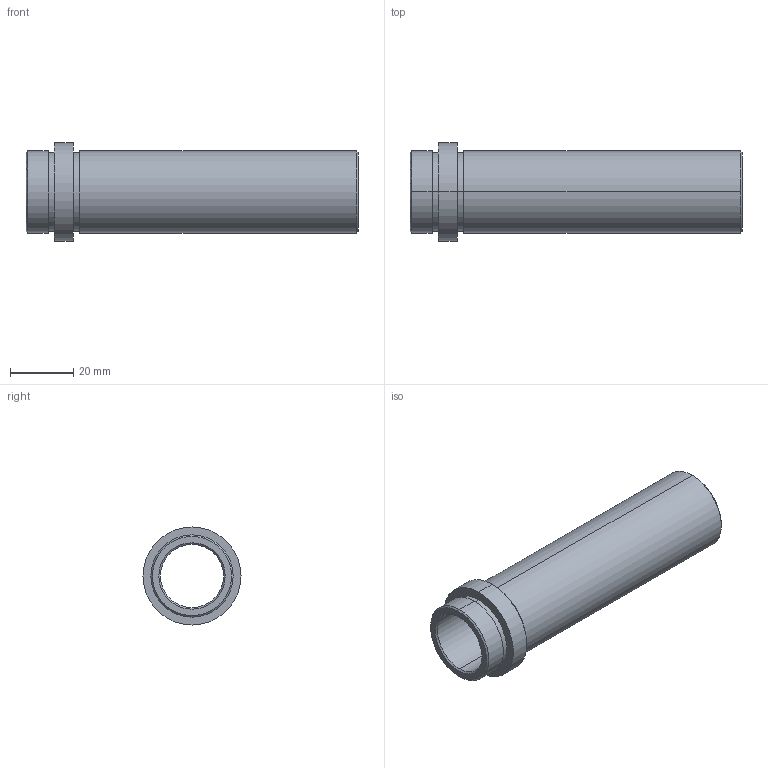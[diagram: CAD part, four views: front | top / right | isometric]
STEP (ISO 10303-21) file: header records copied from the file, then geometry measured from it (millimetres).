
FILE_DESCRIPTION( ( 'STEP AP203' ), '1' );
FILE_NAME( 'D:/Delta 3 D/D21/D21 - 20x96.step', '2002-12-31T22:38:16', ( ' ' ), ( ' ' ), 'XStep 1.0', ' ', ' ' );
FILE_SCHEMA( ( 'CONFIG_CONTROL_DESIGN' ) );
Length unit declared in the file: metre
Products named in the file (1): 1
Bounding box: 105 x 31 x 31 mm (x, y, z)
Volume: 23907.5 mm3; surface area: 16212.4 mm2
Topology: 1 solids, 1 shells, 26 faces, 52 edges, 32 vertices
Faces by surface type: revolution 20, bspline 6
Entity records: 773 total; most frequent: CARTESIAN_POINT 169, DIRECTION 106, ORIENTED_EDGE 104, EDGE_CURVE 52, AXIS2_PLACEMENT_3D 33, EDGE_LOOP 32, VERTEX_POINT 32, CIRCLE 32
